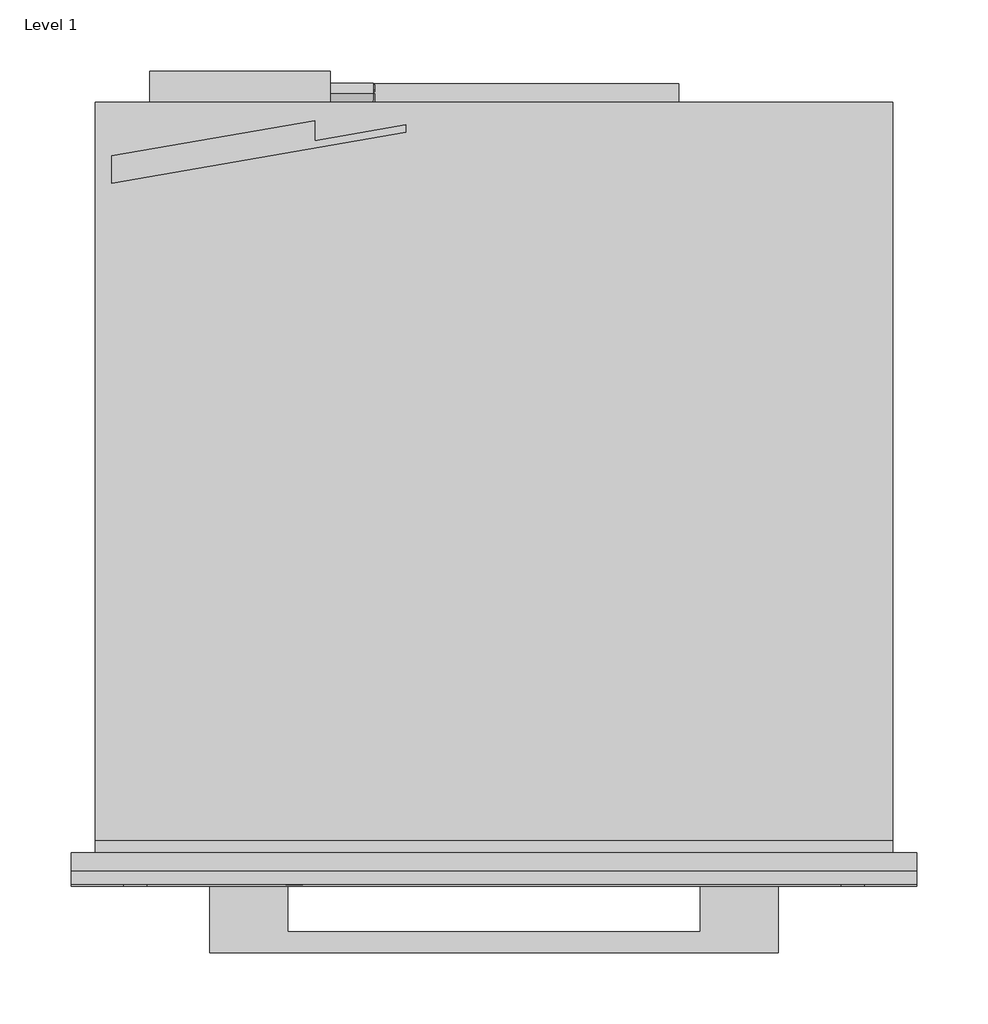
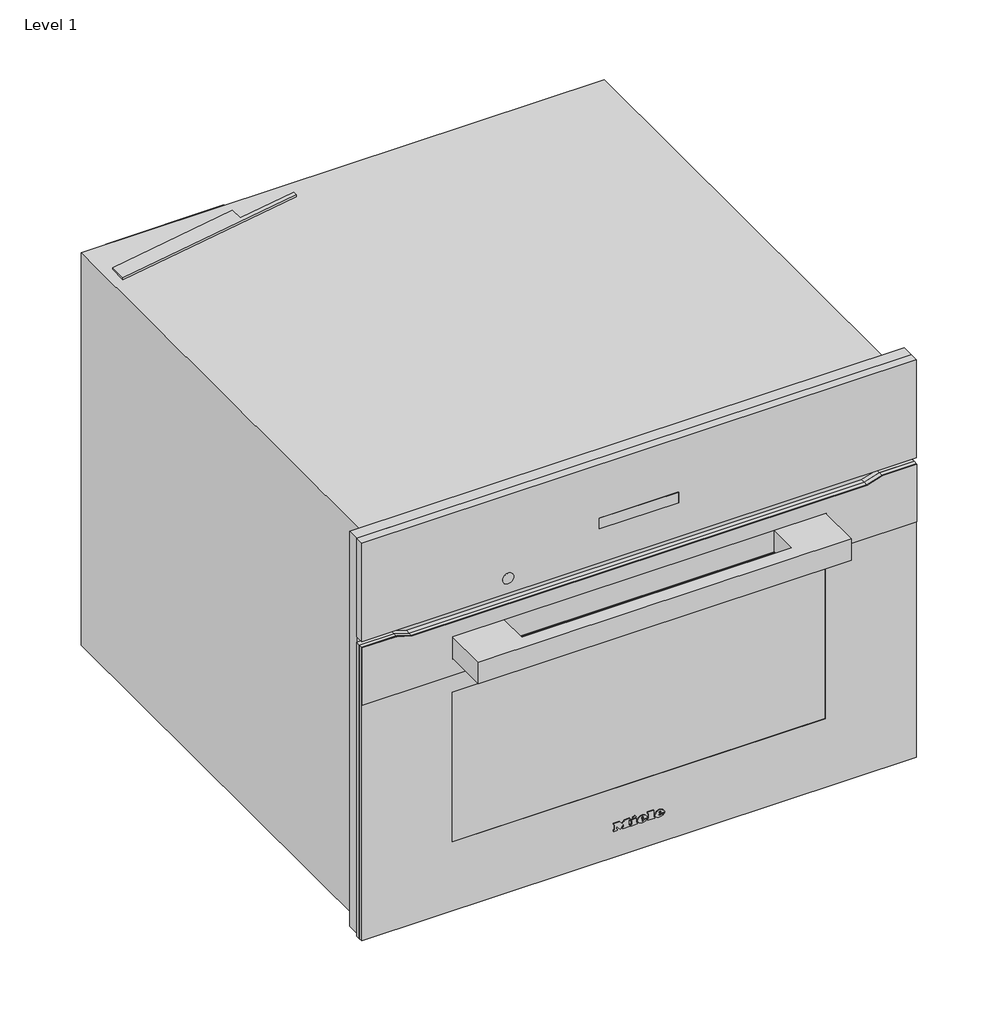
# One storey: 1 proxy.
"""IFC4 building model written with IfcOpenShell, lengths in millimetres."""

from ifc_helpers import new_model, si_unit, origin, place, context, project, spatial, transform, mapped, element, save
from components import specialty_equipment_5c6efe2b

model = new_model("IFC4")

# Units and contexts
model_context = context("Model", 3, world=origin())
ifc_project = project(units=[si_unit("LENGTHUNIT", "METRE", prefix="MILLI")], contexts=[model_context])

# Site, building, storey
site = spatial("IfcSite", under=ifc_project)
building = spatial("IfcBuilding", under=site)
storey = spatial("IfcBuildingStorey", under=building, Name="Level 1", Elevation=0.0)

# Proxy
placement = place(None, origin())
specialty_equipment_shape = specialty_equipment_5c6efe2b(model_context)
element("IfcBuildingElementProxy", 1, Name="11804510_USA_H7240BM_EDST-CLST : 22724046_USA_11804510_H7240BM_EDST-CLST", ObjectType="11804510_USA_H7240BM_EDST-CLST : 22724046_USA_11804510_H7240BM_EDST-CLST", at=placement, inside=storey, context=model_context, shape_type="MappedRepresentation", body=[
    mapped(specialty_equipment_shape, transform((0.0, 0.0, 0.0), x_axis=(1.0, 0.0, 0.0), y_axis=(0.0, 1.0, 0.0), z_axis=(0.0, 0.0, 1.0))),
])

save(model, "model.ifc")
